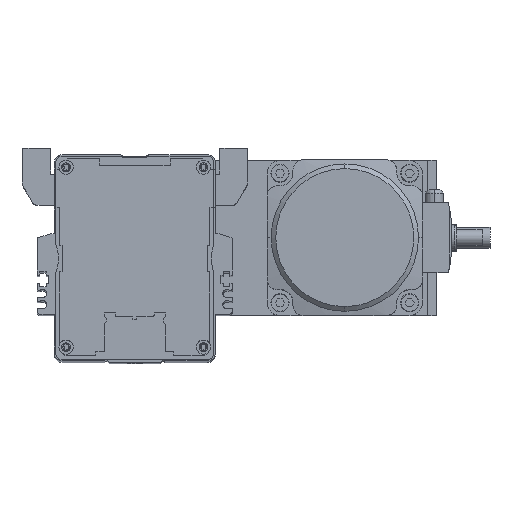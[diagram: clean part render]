
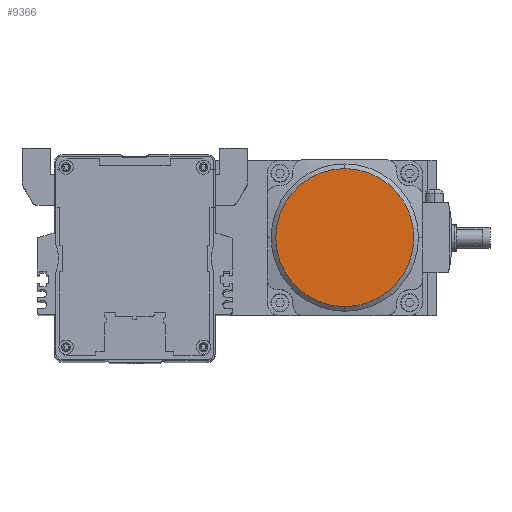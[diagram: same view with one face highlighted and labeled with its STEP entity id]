
A CAD part, top view. The second image highlights one B-rep face of the part: STEP entity #9366.
In plain terms, the highlighted planar face has unit normal (0, 0, 1).
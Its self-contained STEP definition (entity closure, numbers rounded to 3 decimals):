
#2297 = VERTEX_POINT ( 'NONE', #2943 ) ;
#2306 = EDGE_CURVE ( 'NONE', #2363, #2297, #3029, .T. ) ;
#2363 = VERTEX_POINT ( 'NONE', #3083 ) ;
#2943 = CARTESIAN_POINT ( 'NONE',  ( 268.19, 22.585, 99.5 ) ) ;
#2988 = AXIS2_PLACEMENT_3D ( 'NONE', #3032, #3041, #3019 ) ;
#3019 = DIRECTION ( 'NONE',  ( 0., -1., 0. ) ) ;
#3029 = CIRCLE ( 'NONE', #2988, 26.616 ) ;
#3032 = CARTESIAN_POINT ( 'NONE',  ( 268.19, -4.031, 99.5 ) ) ;
#3041 = DIRECTION ( 'NONE',  ( 0., 0., -1. ) ) ;
#3083 = CARTESIAN_POINT ( 'NONE',  ( 268.19, -30.647, 99.5 ) ) ;
#9366 = ADVANCED_FACE ( 'NONE', ( #11654 ), #11595, .T. ) ;
#9367 = EDGE_LOOP ( 'NONE', ( #10692, #10705 ) ) ;
#9758 = EDGE_CURVE ( 'NONE', #2297, #2363, #11912, .T. ) ;
#10692 = ORIENTED_EDGE ( 'NONE', *, *, #2306, .F. ) ;
#10705 = ORIENTED_EDGE ( 'NONE', *, *, #9758, .F. ) ;
#11595 = PLANE ( 'NONE',  #11598 ) ;
#11598 = AXIS2_PLACEMENT_3D ( 'NONE', #11646, #11645, #11644 ) ;
#11644 = DIRECTION ( 'NONE',  ( 0., 1., 0. ) ) ;
#11645 = DIRECTION ( 'NONE',  ( 0., 0., 1. ) ) ;
#11646 = CARTESIAN_POINT ( 'NONE',  ( 254.882, -4.031, 99.5 ) ) ;
#11654 = FACE_OUTER_BOUND ( 'NONE', #9367, .T. ) ;
#11905 = DIRECTION ( 'NONE',  ( 0., -1., 0. ) ) ;
#11906 = DIRECTION ( 'NONE',  ( 0., 0., -1. ) ) ;
#11907 = CARTESIAN_POINT ( 'NONE',  ( 268.19, -4.031, 99.5 ) ) ;
#11909 = AXIS2_PLACEMENT_3D ( 'NONE', #11907, #11906, #11905 ) ;
#11912 = CIRCLE ( 'NONE', #11909, 26.616 ) ;
